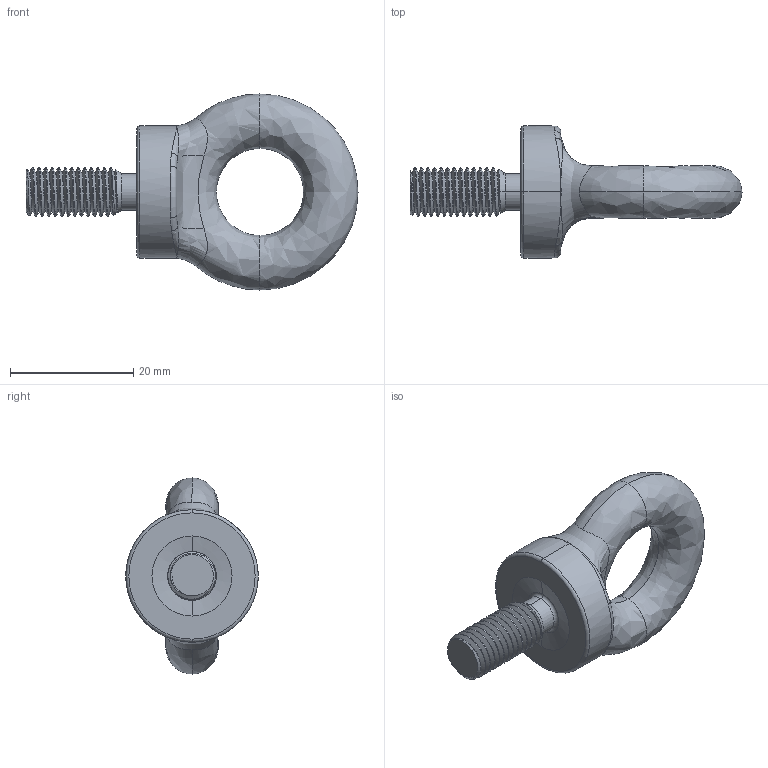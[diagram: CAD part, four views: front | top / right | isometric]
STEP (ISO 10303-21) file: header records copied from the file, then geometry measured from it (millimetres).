
FILE_DESCRIPTION (( 'STEP AP203' ), '1' );
FILE_NAME ('EBUNF312.STEP', '2014-03-14T02:21:06', ( '' ), ( '' ), 'SwSTEP 2.0', 'SolidWorks 2012', '' );
FILE_SCHEMA (( 'CONFIG_CONTROL_DESIGN' ));
Length unit declared in the file: millimetre
Products named in the file (1): EBUNF312
Bounding box: 53.92 x 21.5 x 31.85 mm (x, y, z)
Volume: 7410 mm3; surface area: 3409.6 mm2
Topology: 1 solids, 1 shells, 71 faces, 193 edges, 115 vertices
Faces by surface type: cylinder 30, bspline 21, torus 10, cone 5, plane 5
Entity records: 5500 total; most frequent: CARTESIAN_POINT 3993, ORIENTED_EDGE 370, DIRECTION 230, EDGE_CURVE 185, VERTEX_POINT 115, AXIS2_PLACEMENT_3D 97, EDGE_LOOP 72, FACE_OUTER_BOUND 71
